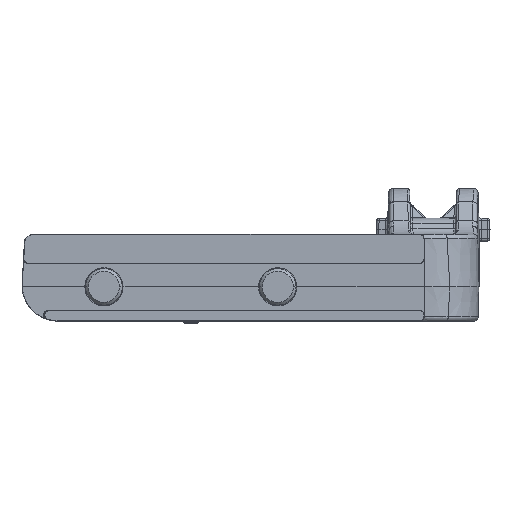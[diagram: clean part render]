
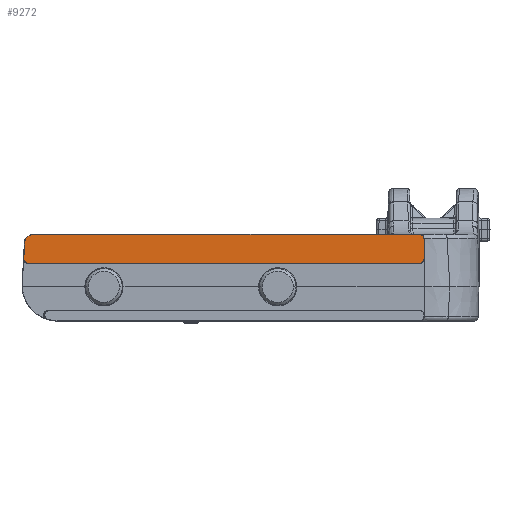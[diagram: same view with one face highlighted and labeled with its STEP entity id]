
A CAD part, front view. The second image highlights one B-rep face of the part: STEP entity #9272.
In plain terms, the highlighted planar face has unit normal (0, -1, 0).
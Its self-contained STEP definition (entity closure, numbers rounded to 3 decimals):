
#444 =( BOUNDED_CURVE ( )  B_SPLINE_CURVE ( 3, ( #16156, #16157, #16164, #16165 ),
 .UNSPECIFIED., .F., .F. ) 
 B_SPLINE_CURVE_WITH_KNOTS ( ( 4, 4 ),
 ( 2.33, 3.953 ),
 .UNSPECIFIED. ) 
 CURVE ( )  GEOMETRIC_REPRESENTATION_ITEM ( )  RATIONAL_B_SPLINE_CURVE ( ( 1., 0.792, 0.792, 1. ) ) 
 REPRESENTATION_ITEM ( '' )  );
#447 =( BOUNDED_CURVE ( )  B_SPLINE_CURVE ( 3, ( #16184, #16180, #16188, #16189 ),
 .UNSPECIFIED., .F., .F. ) 
 B_SPLINE_CURVE_WITH_KNOTS ( ( 4, 4 ),
 ( 5.498, 7.068 ),
 .UNSPECIFIED. ) 
 CURVE ( )  GEOMETRIC_REPRESENTATION_ITEM ( )  RATIONAL_B_SPLINE_CURVE ( ( 1., 0.805, 0.805, 1. ) ) 
 REPRESENTATION_ITEM ( '' )  );
#448 =( BOUNDED_CURVE ( )  B_SPLINE_CURVE ( 3, ( #16186, #16187, #16192, #16193 ),
 .UNSPECIFIED., .F., .F. ) 
 B_SPLINE_CURVE_WITH_KNOTS ( ( 4, 4 ),
 ( 5.498, 7.068 ),
 .UNSPECIFIED. ) 
 CURVE ( )  GEOMETRIC_REPRESENTATION_ITEM ( )  RATIONAL_B_SPLINE_CURVE ( ( 1., 0.805, 0.805, 1. ) ) 
 REPRESENTATION_ITEM ( '' )  );
#1009 = LINE ( 'NONE', #16237, #1023 ) ;
#1013 = LINE ( 'NONE', #16227, #1016 ) ;
#1016 = VECTOR ( 'NONE', #16216, 1000. ) ;
#1017 = LINE ( 'NONE', #16233, #1020 ) ;
#1019 = CIRCLE ( 'NONE', #4658, 0.962 ) ;
#1020 = VECTOR ( 'NONE', #16234, 1000. ) ;
#1023 = VECTOR ( 'NONE', #16226, 1000. ) ;
#4658 = AXIS2_PLACEMENT_3D ( 'NONE', #16238, #16239, #16240 ) ;
#4920 = LINE ( 'NONE', #16169, #27137 ) ;
#7667 = ORIENTED_EDGE ( 'NONE', *, *, #11134, .T. ) ;
#7668 = ORIENTED_EDGE ( 'NONE', *, *, #11125, .T. ) ;
#7669 = ORIENTED_EDGE ( 'NONE', *, *, #11136, .F. ) ;
#7670 = ORIENTED_EDGE ( 'NONE', *, *, #11137, .F. ) ;
#7671 = ORIENTED_EDGE ( 'NONE', *, *, #11138, .F. ) ;
#7672 = ORIENTED_EDGE ( 'NONE', *, *, #11115, .T. ) ;
#7673 = ORIENTED_EDGE ( 'NONE', *, *, #11119, .T. ) ;
#7674 = ORIENTED_EDGE ( 'NONE', *, *, #11124, .T. ) ;
#9272 = ADVANCED_FACE ( 'NONE', ( #26852 ), #17290, .F. ) ;
#9900 = VERTEX_POINT ( 'NONE', #15577 ) ;
#9902 = VERTEX_POINT ( 'NONE', #15579 ) ;
#9910 = VERTEX_POINT ( 'NONE', #15587 ) ;
#9912 = VERTEX_POINT ( 'NONE', #15589 ) ;
#9915 = VERTEX_POINT ( 'NONE', #15592 ) ;
#9916 = VERTEX_POINT ( 'NONE', #15593 ) ;
#9919 = VERTEX_POINT ( 'NONE', #15596 ) ;
#9924 = VERTEX_POINT ( 'NONE', #15601 ) ;
#11115 = EDGE_CURVE ( 'NONE', #9919, #9916, #444, .T. ) ;
#11119 = EDGE_CURVE ( 'NONE', #9916, #9915, #4920, .T. ) ;
#11124 = EDGE_CURVE ( 'NONE', #9915, #9912, #447, .T. ) ;
#11125 = EDGE_CURVE ( 'NONE', #9924, #9910, #448, .T. ) ;
#11134 = EDGE_CURVE ( 'NONE', #9912, #9924, #1013, .T. ) ;
#11136 = EDGE_CURVE ( 'NONE', #9902, #9910, #1017, .T. ) ;
#11137 = EDGE_CURVE ( 'NONE', #9900, #9902, #1019, .T. ) ;
#11138 = EDGE_CURVE ( 'NONE', #9919, #9900, #1009, .T. ) ;
#11699 = EDGE_LOOP ( 'NONE', ( #7667, #7668, #7669, #7670, #7671, #7672, #7673, #7674 ) ) ;
#15577 = CARTESIAN_POINT ( 'NONE',  ( -27.662, 31., -1.45 ) ) ;
#15579 = CARTESIAN_POINT ( 'NONE',  ( -26.701, 31., -0.538 ) ) ;
#15587 = CARTESIAN_POINT ( 'NONE',  ( 15.488, 31., -0.538 ) ) ;
#15589 = CARTESIAN_POINT ( 'NONE',  ( 15.987, 31., -3.175 ) ) ;
#15592 = CARTESIAN_POINT ( 'NONE',  ( 15.488, 31., -3.675 ) ) ;
#15593 = CARTESIAN_POINT ( 'NONE',  ( -27.252, 31., -3.675 ) ) ;
#15596 = CARTESIAN_POINT ( 'NONE',  ( -27.751, 31., -3.149 ) ) ;
#15601 = CARTESIAN_POINT ( 'NONE',  ( 15.987, 31., -1.038 ) ) ;
#16156 = CARTESIAN_POINT ( 'NONE',  ( -27.751, 31., -3.149 ) ) ;
#16157 = CARTESIAN_POINT ( 'NONE',  ( -27.767, 31., -3.454 ) ) ;
#16164 = CARTESIAN_POINT ( 'NONE',  ( -27.557, 31., -3.675 ) ) ;
#16165 = CARTESIAN_POINT ( 'NONE',  ( -27.252, 31., -3.675 ) ) ;
#16169 = CARTESIAN_POINT ( 'NONE',  ( -38.703, 31., -3.675 ) ) ;
#16175 = DIRECTION ( 'NONE',  ( 1., 0., 0. ) ) ;
#16180 = CARTESIAN_POINT ( 'NONE',  ( 15.78, 31., -3.675 ) ) ;
#16184 = CARTESIAN_POINT ( 'NONE',  ( 15.488, 31., -3.675 ) ) ;
#16186 = CARTESIAN_POINT ( 'NONE',  ( 15.987, 31., -1.038 ) ) ;
#16187 = CARTESIAN_POINT ( 'NONE',  ( 15.987, 31., -0.745 ) ) ;
#16188 = CARTESIAN_POINT ( 'NONE',  ( 15.987, 31., -3.468 ) ) ;
#16189 = CARTESIAN_POINT ( 'NONE',  ( 15.987, 31., -3.175 ) ) ;
#16192 = CARTESIAN_POINT ( 'NONE',  ( 15.78, 31., -0.538 ) ) ;
#16193 = CARTESIAN_POINT ( 'NONE',  ( 15.488, 31., -0.538 ) ) ;
#16216 = DIRECTION ( 'NONE',  ( 0., 0., 1. ) ) ;
#16226 = DIRECTION ( 'NONE',  ( 0.052, 0., 0.999 ) ) ;
#16227 = CARTESIAN_POINT ( 'NONE',  ( 15.987, 31., -1.5 ) ) ;
#16233 = CARTESIAN_POINT ( 'NONE',  ( 0., 31., -0.538 ) ) ;
#16234 = DIRECTION ( 'NONE',  ( 1., 0., 0. ) ) ;
#16237 = CARTESIAN_POINT ( 'NONE',  ( -27.511, 31., 1.442 ) ) ;
#16238 = CARTESIAN_POINT ( 'NONE',  ( -26.701, 31., -1.5 ) ) ;
#16239 = DIRECTION ( 'NONE',  ( 0., 1., 0. ) ) ;
#16240 = DIRECTION ( 'NONE',  ( 0., 0., 1. ) ) ;
#17286 = CARTESIAN_POINT ( 'NONE',  ( -26.701, 31., -1.5 ) ) ;
#17290 = PLANE ( 'NONE',  #26520 ) ;
#17292 = DIRECTION ( 'NONE',  ( 0., 1., 0. ) ) ;
#17293 = DIRECTION ( 'NONE',  ( 0., 0., 1. ) ) ;
#26520 = AXIS2_PLACEMENT_3D ( 'NONE', #17286, #17292, #17293 ) ;
#26852 = FACE_OUTER_BOUND ( 'NONE', #11699, .T. ) ;
#27137 = VECTOR ( 'NONE', #16175, 1000. ) ;
